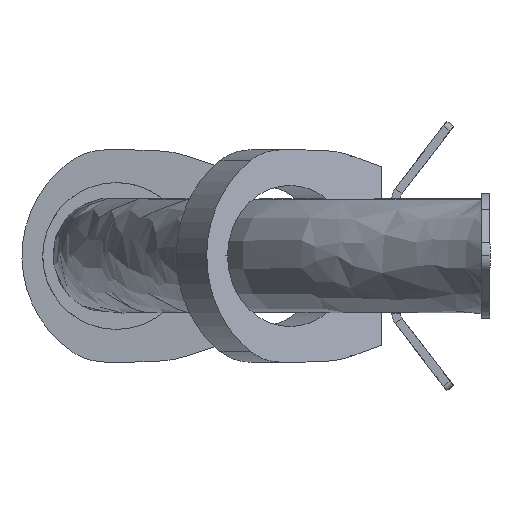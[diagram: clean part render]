
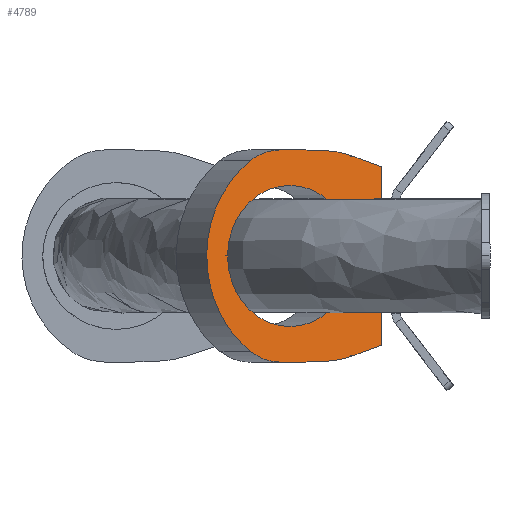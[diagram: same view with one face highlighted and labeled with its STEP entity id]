
A CAD part, left-side view. The second image highlights one B-rep face of the part: STEP entity #4789.
In plain terms, the highlighted planar face has unit normal (-0.883, -0.469, 0).
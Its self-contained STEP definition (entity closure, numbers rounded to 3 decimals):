
#193 = VECTOR ( 'NONE', #3282, 1000. ) ;
#200 = CARTESIAN_POINT ( 'NONE',  ( 1011.847, 288.085, 2909.755 ) ) ;
#220 = CARTESIAN_POINT ( 'NONE',  ( 1015.132, 281.907, 2928.384 ) ) ;
#243 = CARTESIAN_POINT ( 'NONE',  ( 1020.392, 272.014, 2944.816 ) ) ;
#276 = DIRECTION ( 'NONE',  ( -0.469, 0.882, 0.035 ) ) ;
#292 = VERTEX_POINT ( 'NONE', #5350 ) ;
#298 = CARTESIAN_POINT ( 'NONE',  ( 1027.553, 258.546, 2822.519 ) ) ;
#316 = DIRECTION ( 'NONE',  ( -0.883, -0.469, 0. ) ) ;
#318 = CARTESIAN_POINT ( 'NONE',  ( 1029.083, 255.668, 2820.227 ) ) ;
#350 = CARTESIAN_POINT ( 'NONE',  ( 1076.829, 165.871, 2826.917 ) ) ;
#393 = ORIENTED_EDGE ( 'NONE', *, *, #4023, .T. ) ;
#458 = VERTEX_POINT ( 'NONE', #3489 ) ;
#475 = CARTESIAN_POINT ( 'NONE',  ( 1025.03, 263.29, 2953.702 ) ) ;
#512 = LINE ( 'NONE', #4890, #4483 ) ;
#660 = AXIS2_PLACEMENT_3D ( 'NONE', #5091, #5538, #5126 ) ;
#682 = CARTESIAN_POINT ( 'NONE',  ( 1066.12, 186.012, 2960.642 ) ) ;
#697 = ORIENTED_EDGE ( 'NONE', *, *, #3873, .T. ) ;
#719 = VECTOR ( 'NONE', #276, 1000. ) ;
#726 = CIRCLE ( 'NONE', #660, 50. ) ;
#780 = CARTESIAN_POINT ( 'NONE',  ( 1038.081, 238.745, 2814.989 ) ) ;
#1062 = CARTESIAN_POINT ( 'NONE',  ( 1027.553, 258.546, 2957.481 ) ) ;
#1074 = VERTEX_POINT ( 'NONE', #4244 ) ;
#1089 = CARTESIAN_POINT ( 'NONE',  ( 1027.553, 258.546, 2957.481 ) ) ;
#1111 = LINE ( 'NONE', #2287, #2652 ) ;
#1148 = CARTESIAN_POINT ( 'NONE',  ( 1029.083, 255.668, 2959.773 ) ) ;
#1164 = FACE_BOUND ( 'NONE', #2806, .T. ) ;
#1192 = ORIENTED_EDGE ( 'NONE', *, *, #4331, .T. ) ;
#1387 = VERTEX_POINT ( 'NONE', #780 ) ;
#1446 = CARTESIAN_POINT ( 'NONE',  ( 1032.473, 249.294, 2963.433 ) ) ;
#1453 = VECTOR ( 'NONE', #5718, 1000. ) ;
#1493 = CARTESIAN_POINT ( 'NONE',  ( 1036.212, 242.261, 2964.872 ) ) ;
#1524 = DIRECTION ( 'NONE',  ( -0.469, 0.882, -0.035 ) ) ;
#1548 = CARTESIAN_POINT ( 'NONE',  ( 1038.081, 238.745, 2965.011 ) ) ;
#1569 = CARTESIAN_POINT ( 'NONE',  ( 1065.873, 186.476, 2890. ) ) ;
#1633 = VERTEX_POINT ( 'NONE', #6371 ) ;
#1651 = CARTESIAN_POINT ( 'NONE',  ( 1038.081, 238.745, 2965.011 ) ) ;
#1665 = CARTESIAN_POINT ( 'NONE',  ( 1043.497, 228.56, 2965.414 ) ) ;
#2016 = CARTESIAN_POINT ( 'NONE',  ( 1061.162, 195.336, 2816.68 ) ) ;
#2025 = VERTEX_POINT ( 'NONE', #3533 ) ;
#2115 = LINE ( 'NONE', #6524, #3409 ) ;
#2139 = CARTESIAN_POINT ( 'NONE',  ( 1056.077, 204.9, 2964.478 ) ) ;
#2169 = CARTESIAN_POINT ( 'NONE',  ( 1059.476, 198.508, 2964.225 ) ) ;
#2260 = DIRECTION ( 'NONE',  ( -0.446, 0.838, 0.315 ) ) ;
#2287 = CARTESIAN_POINT ( 'NONE',  ( 1066.12, 186.012, 2960.642 ) ) ;
#2428 = B_SPLINE_CURVE_WITH_KNOTS ( 'NONE', 3,
 ( #2566, #2641, #2169, #2139 ),
 .UNSPECIFIED., .F., .F.,
 ( 4, 4 ),
 ( 1.163, 1.449 ),
 .UNSPECIFIED. ) ;
#2454 = ORIENTED_EDGE ( 'NONE', *, *, #3887, .T. ) ;
#2566 = CARTESIAN_POINT ( 'NONE',  ( 1066.12, 186.012, 2960.642 ) ) ;
#2580 = DIRECTION ( 'NONE',  ( 0.469, -0.883, 0. ) ) ;
#2632 = ORIENTED_EDGE ( 'NONE', *, *, #3905, .T. ) ;
#2641 = CARTESIAN_POINT ( 'NONE',  ( 1062.891, 192.084, 2962.92 ) ) ;
#2652 = VECTOR ( 'NONE', #2260, 1000. ) ;
#2697 = FACE_OUTER_BOUND ( 'NONE', #6101, .T. ) ;
#2730 = VERTEX_POINT ( 'NONE', #682 ) ;
#2802 = ORIENTED_EDGE ( 'NONE', *, *, #3916, .T. ) ;
#2806 = EDGE_LOOP ( 'NONE', ( #6582, #3240 ) ) ;
#2844 = CARTESIAN_POINT ( 'NONE',  ( 1056.077, 204.9, 2964.478 ) ) ;
#2874 = B_SPLINE_CURVE_WITH_KNOTS ( 'NONE', 3,
 ( #1062, #475, #243, #220, #200, #4795, #6423, #4391, #3877, #3826, #3303 ),
 .UNSPECIFIED., .F., .F.,
 ( 4, 1, 1, 1, 1, 1, 1, 1, 4 ),
 ( -0.902, -0.663, -0.423, -0.184, 0.056, 0.295, 0.535, 0.774, 1.014 ),
 .UNSPECIFIED. ) ;
#2972 = VERTEX_POINT ( 'NONE', #1651 ) ;
#3076 = ORIENTED_EDGE ( 'NONE', *, *, #3838, .T. ) ;
#3086 = AXIS2_PLACEMENT_3D ( 'NONE', #2016, #5585, #2580 ) ;
#3138 = LINE ( 'NONE', #5311, #1453 ) ;
#3155 = ORIENTED_EDGE ( 'NONE', *, *, #3927, .T. ) ;
#3230 = VERTEX_POINT ( 'NONE', #350 ) ;
#3240 = ORIENTED_EDGE ( 'NONE', *, *, #4285, .F. ) ;
#3282 = DIRECTION ( 'NONE',  ( 0., 0., 1. ) ) ;
#3285 = AXIS2_PLACEMENT_3D ( 'NONE', #3752, #316, #4303 ) ;
#3303 = CARTESIAN_POINT ( 'NONE',  ( 1027.553, 258.546, 2822.519 ) ) ;
#3375 = EDGE_CURVE ( 'NONE', #4609, #5318, #726, .T. ) ;
#3409 = VECTOR ( 'NONE', #6536, 1000. ) ;
#3489 = CARTESIAN_POINT ( 'NONE',  ( 1027.553, 258.546, 2822.519 ) ) ;
#3533 = CARTESIAN_POINT ( 'NONE',  ( 1043.497, 228.56, 2814.586 ) ) ;
#3573 = LINE ( 'NONE', #1548, #6047 ) ;
#3599 = B_SPLINE_CURVE_WITH_KNOTS ( 'NONE', 3,
 ( #298, #318, #6511, #6493, #6475 ),
 .UNSPECIFIED., .F., .F.,
 ( 4, 1, 4 ),
 ( 1.033, 1.322, 1.611 ),
 .UNSPECIFIED. ) ;
#3752 = CARTESIAN_POINT ( 'NONE',  ( 1042.4, 230.623, 2890. ) ) ;
#3826 = CARTESIAN_POINT ( 'NONE',  ( 1025.03, 263.29, 2826.298 ) ) ;
#3838 = EDGE_CURVE ( 'NONE', #1633, #2730, #1111, .T. ) ;
#3859 = EDGE_CURVE ( 'NONE', #2730, #6254, #2428, .T. ) ;
#3873 = EDGE_CURVE ( 'NONE', #6254, #4778, #4958, .T. ) ;
#3877 = CARTESIAN_POINT ( 'NONE',  ( 1020.392, 272.014, 2835.184 ) ) ;
#3887 = EDGE_CURVE ( 'NONE', #4778, #2972, #3573, .T. ) ;
#3905 = EDGE_CURVE ( 'NONE', #2972, #292, #4892, .T. ) ;
#3916 = EDGE_CURVE ( 'NONE', #292, #458, #2874, .T. ) ;
#3927 = EDGE_CURVE ( 'NONE', #458, #1387, #3599, .T. ) ;
#3937 = EDGE_CURVE ( 'NONE', #1387, #2025, #2115, .T. ) ;
#3963 = EDGE_CURVE ( 'NONE', #1074, #4900, #6497, .T. ) ;
#4023 = EDGE_CURVE ( 'NONE', #2025, #1074, #512, .T. ) ;
#4244 = CARTESIAN_POINT ( 'NONE',  ( 1056.077, 204.9, 2815.522 ) ) ;
#4285 = EDGE_CURVE ( 'NONE', #5318, #4609, #4999, .T. ) ;
#4303 = DIRECTION ( 'NONE',  ( 0.469, -0.883, 0. ) ) ;
#4331 = EDGE_CURVE ( 'NONE', #3230, #1633, #4850, .T. ) ;
#4362 = EDGE_CURVE ( 'NONE', #4900, #3230, #3138, .T. ) ;
#4391 = CARTESIAN_POINT ( 'NONE',  ( 1015.132, 281.907, 2851.616 ) ) ;
#4483 = VECTOR ( 'NONE', #4935, 1000. ) ;
#4609 = VERTEX_POINT ( 'NONE', #5903 ) ;
#4694 = PLANE ( 'NONE',  #3086 ) ;
#4707 = ORIENTED_EDGE ( 'NONE', *, *, #3937, .T. ) ;
#4778 = VERTEX_POINT ( 'NONE', #5164 ) ;
#4789 = ADVANCED_FACE ( 'NONE', ( #2697, #1164 ), #4694, .T. ) ;
#4795 = CARTESIAN_POINT ( 'NONE',  ( 1010.731, 290.183, 2890. ) ) ;
#4850 = LINE ( 'NONE', #6095, #193 ) ;
#4890 = CARTESIAN_POINT ( 'NONE',  ( 1056.077, 204.9, 2815.522 ) ) ;
#4892 = B_SPLINE_CURVE_WITH_KNOTS ( 'NONE', 3,
 ( #6527, #1493, #1446, #1148, #1089 ),
 .UNSPECIFIED., .F., .F.,
 ( 4, 1, 4 ),
 ( -1.46, -1.171, -0.882 ),
 .UNSPECIFIED. ) ;
#4900 = VERTEX_POINT ( 'NONE', #6137 ) ;
#4935 = DIRECTION ( 'NONE',  ( 0.469, -0.882, 0.035 ) ) ;
#4958 = LINE ( 'NONE', #1665, #719 ) ;
#4999 = CIRCLE ( 'NONE', #3285, 50. ) ;
#5009 = ORIENTED_EDGE ( 'NONE', *, *, #3963, .T. ) ;
#5091 = CARTESIAN_POINT ( 'NONE',  ( 1042.4, 230.623, 2890. ) ) ;
#5126 = DIRECTION ( 'NONE',  ( 0.469, -0.883, 0. ) ) ;
#5152 = ORIENTED_EDGE ( 'NONE', *, *, #4362, .T. ) ;
#5164 = CARTESIAN_POINT ( 'NONE',  ( 1043.497, 228.56, 2965.414 ) ) ;
#5311 = CARTESIAN_POINT ( 'NONE',  ( 1076.829, 165.871, 2826.917 ) ) ;
#5318 = VERTEX_POINT ( 'NONE', #1569 ) ;
#5350 = CARTESIAN_POINT ( 'NONE',  ( 1027.553, 258.546, 2957.481 ) ) ;
#5538 = DIRECTION ( 'NONE',  ( -0.883, -0.469, 0. ) ) ;
#5585 = DIRECTION ( 'NONE',  ( -0.883, -0.469, 0. ) ) ;
#5668 = ORIENTED_EDGE ( 'NONE', *, *, #3859, .T. ) ;
#5718 = DIRECTION ( 'NONE',  ( 0.446, -0.838, 0.315 ) ) ;
#5744 = CARTESIAN_POINT ( 'NONE',  ( 1066.12, 186.012, 2819.358 ) ) ;
#5763 = CARTESIAN_POINT ( 'NONE',  ( 1062.891, 192.084, 2817.08 ) ) ;
#5903 = CARTESIAN_POINT ( 'NONE',  ( 1018.926, 274.77, 2890. ) ) ;
#6047 = VECTOR ( 'NONE', #1524, 1000. ) ;
#6095 = CARTESIAN_POINT ( 'NONE',  ( 1076.829, 165.871, 2953.083 ) ) ;
#6101 = EDGE_LOOP ( 'NONE', ( #3076, #5668, #697, #2454, #2632, #2802, #3155, #4707, #393, #5009, #5152, #1192 ) ) ;
#6106 = CARTESIAN_POINT ( 'NONE',  ( 1056.077, 204.9, 2815.522 ) ) ;
#6137 = CARTESIAN_POINT ( 'NONE',  ( 1066.12, 186.012, 2819.358 ) ) ;
#6254 = VERTEX_POINT ( 'NONE', #2844 ) ;
#6371 = CARTESIAN_POINT ( 'NONE',  ( 1076.829, 165.871, 2953.083 ) ) ;
#6423 = CARTESIAN_POINT ( 'NONE',  ( 1011.847, 288.085, 2870.245 ) ) ;
#6475 = CARTESIAN_POINT ( 'NONE',  ( 1038.081, 238.745, 2814.989 ) ) ;
#6493 = CARTESIAN_POINT ( 'NONE',  ( 1036.212, 242.261, 2815.128 ) ) ;
#6497 = B_SPLINE_CURVE_WITH_KNOTS ( 'NONE', 3,
 ( #6106, #6558, #5763, #5744 ),
 .UNSPECIFIED., .F., .F.,
 ( 4, 4 ),
 ( -1.623, -1.338 ),
 .UNSPECIFIED. ) ;
#6511 = CARTESIAN_POINT ( 'NONE',  ( 1032.473, 249.294, 2816.567 ) ) ;
#6524 = CARTESIAN_POINT ( 'NONE',  ( 1038.081, 238.745, 2814.989 ) ) ;
#6527 = CARTESIAN_POINT ( 'NONE',  ( 1038.081, 238.745, 2965.011 ) ) ;
#6536 = DIRECTION ( 'NONE',  ( 0.469, -0.882, -0.035 ) ) ;
#6558 = CARTESIAN_POINT ( 'NONE',  ( 1059.476, 198.508, 2815.775 ) ) ;
#6582 = ORIENTED_EDGE ( 'NONE', *, *, #3375, .F. ) ;
